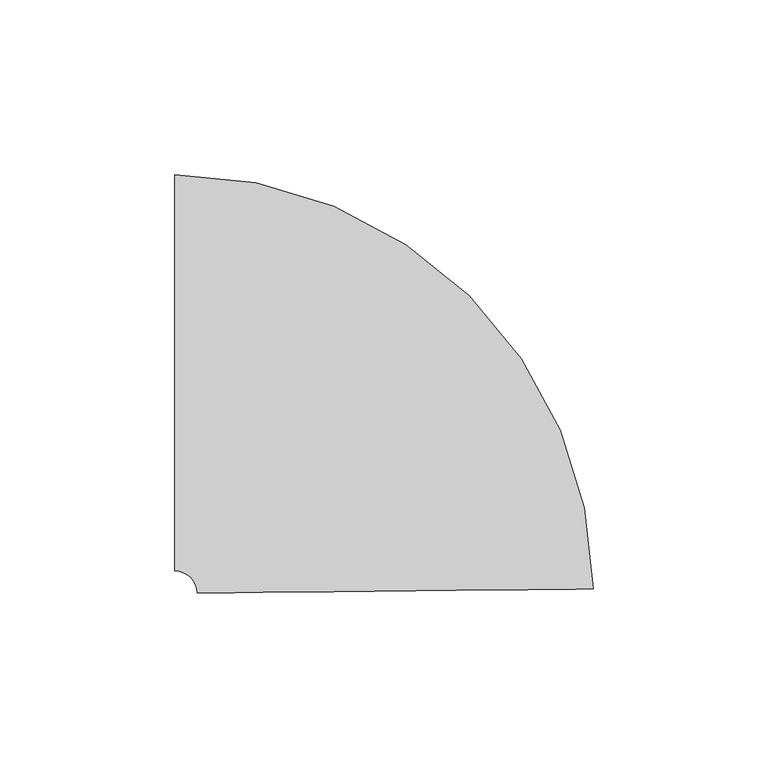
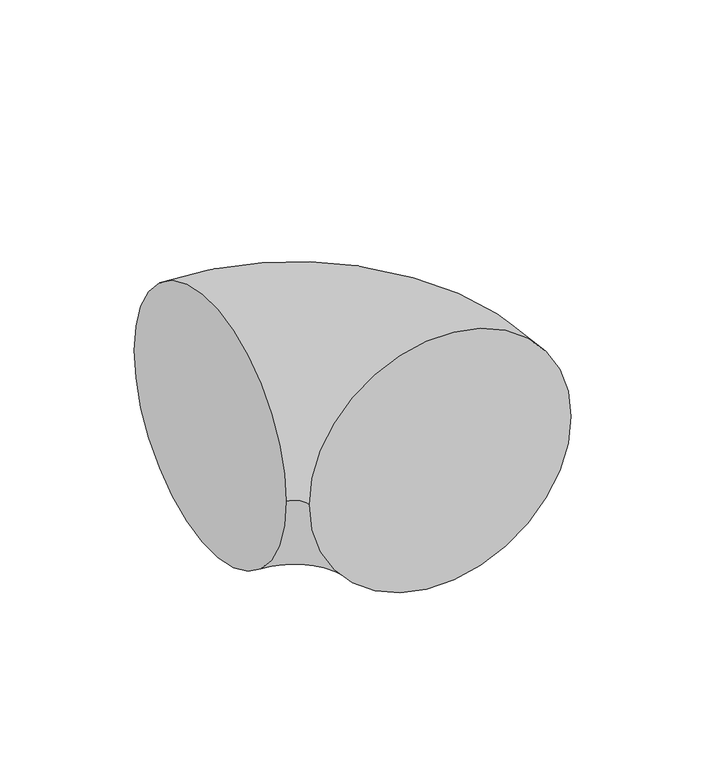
"""IFC4 building model written with IfcOpenShell, lengths in millimetres: pipe fitting geometry, M_Codo - Genérico : Estándar."""

from ifc_helpers import new_model, si_unit, point, frame, origin, place, context, project, spatial, circle_curve, ellipse_curve, trimmed, source, transform, mapped, element, save
from ifc_brep_helpers import plane_surface, revolved_surface, advanced_brep


def pipe_fitting_3454c7e7(model_context):
    return source(origin(), model_context, "Body", "AdvancedBrep", [
        advanced_brep(
        [(-62.3112718, 56.5875, 0.0), (-62.3112718, -56.5875, 0.0), (57.2077524, -61.7423098, 0.0), (-55.9615893, -62.8740032, 0.0)],
        [
            (0, 1, circle_curve(frame((-62.3112718, 0.0, 0.0), z_axis=(-1.0, 0.0, 0.0), x_axis=(0.0, -1.0, 0.0)), 56.5875)),
            (1, 0, circle_curve(frame((-62.3112718, 0.0, 0.0), z_axis=(-1.0, 0.0, 0.0), x_axis=(0.0, -1.0, 0.0)), 56.5875)),
            (2, 3, circle_curve(frame((0.6230816, -62.3081565, 0.0), z_axis=(0.009999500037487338, -0.9999500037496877, 0.0), x_axis=(-0.9999500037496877, -0.009999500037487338, 0.0)), 56.5875)),
            (3, 2, circle_curve(frame((0.6230816, -62.3081565, 0.0), z_axis=(0.009999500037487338, -0.9999500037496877, 0.0), x_axis=(-0.9999500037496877, -0.009999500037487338, 0.0)), 56.5875)),
            (2, 0, circle_curve(frame((-62.3112718, -62.9375, 0.0), z_axis=(0.0, 0.0, 1.0), x_axis=(0.0, 1.0, 0.0)), 119.525)),
            (1, 3, circle_curve(frame((-62.3112718, -62.9375, 0.0), z_axis=(0.0, 0.0, -1.0), x_axis=(0.0, 1.0, 0.0)), 6.35)),
        ],
        [
            plane_surface(frame((-62.3112718, 0.0, 0.0), z_axis=(-1.0, 0.0, 0.0), x_axis=(0.0, 0.0, 1.0))),
            plane_surface(frame((0.6230816, -62.3081565, 0.0), z_axis=(0.00999950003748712, -0.9999500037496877, 0.0), x_axis=(0.0, 0.0, 1.0))),
            revolved_surface(trimmed(ellipse_curve(frame((-62.3112718, 0.0, 0.0), z_axis=(1.0, 0.0, 0.0), x_axis=(0.0, -1.0, 0.0)), 56.5875, 56.5875), [point((-62.3112718, 56.5875, 0.0))], [point((-62.3112718, -56.5875, 0.0))], True, "CARTESIAN"), (-62.3112718, -62.9375, 0.0), (0.0, 0.0, 1.0)),
            revolved_surface(trimmed(ellipse_curve(frame((-62.3112718, 0.0, 0.0), z_axis=(1.0, 0.0, 0.0), x_axis=(0.0, -1.0, 0.0)), 56.5875, 56.5875), [point((-62.3112718, -56.5875, 0.0))], [point((-62.3112718, 56.5875, 0.0))], True, "CARTESIAN"), (-62.3112718, -62.9375, 0.0), (0.0, 0.0, 1.0)),
        ],
        [
            (0, [[1, 2]]),
            (1, [[3, 4]]),
            (2, [[-3, 5, -2, 6]]),
            (3, [[-4, -6, -1, -5]]),
        ],
    ),
    ])


if __name__ == "__main__":
    model = new_model("IFC4")
    model_context = context("Model", 3, world=origin())
    ifc_project = project(units=[si_unit("LENGTHUNIT", "METRE", prefix="MILLI")], contexts=[model_context])
    site = spatial("IfcSite", under=ifc_project)
    building = spatial("IfcBuilding", under=site)
    placement = place(None, origin())
    pipe_fitting_shape = pipe_fitting_3454c7e7(model_context)
    element("IfcPipeFitting", 1, ObjectType="M_Codo - Genérico : Estándar", at=placement, inside=building, context=model_context, shape_type="MappedRepresentation", body=[
        mapped(pipe_fitting_shape, transform((0.0, 0.0, 0.0), x_axis=(1.0, 0.0, 0.0), y_axis=(0.0, 1.0, 0.0), z_axis=(0.0, 0.0, 1.0))),
    ])
    save(model, "model.ifc")
